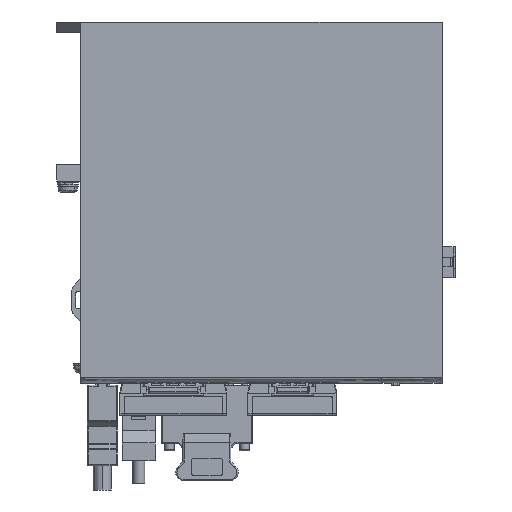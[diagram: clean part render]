
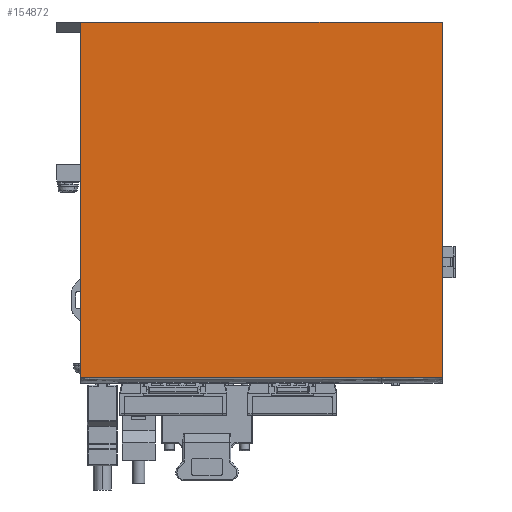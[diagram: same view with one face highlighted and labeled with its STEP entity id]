
A CAD part, front view. The second image highlights one B-rep face of the part: STEP entity #154872.
In plain terms, the highlighted planar face has unit normal (0, -1, 0).
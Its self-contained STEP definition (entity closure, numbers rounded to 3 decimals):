
#3384 = DIRECTION ( 'NONE',  ( 1., 0., 0. ) ) ;
#3992 = DIRECTION ( 'NONE',  ( 1., 0., 0. ) ) ;
#9559 = VECTOR ( 'NONE', #3992, 1000. ) ;
#12413 = CARTESIAN_POINT ( 'NONE',  ( -150., 0., -81.9 ) ) ;
#17220 = VERTEX_POINT ( 'NONE', #12413 ) ;
#20516 = CARTESIAN_POINT ( 'NONE',  ( -150., 0., -81.9 ) ) ;
#24098 = CARTESIAN_POINT ( 'NONE',  ( -150., 0., -81.9 ) ) ;
#32229 = CARTESIAN_POINT ( 'NONE',  ( -150., 0., 65.6 ) ) ;
#32754 = DIRECTION ( 'NONE',  ( 0., 0., -1. ) ) ;
#32850 = ORIENTED_EDGE ( 'NONE', *, *, #40847, .F. ) ;
#33152 = VERTEX_POINT ( 'NONE', #32229 ) ;
#37488 = ORIENTED_EDGE ( 'NONE', *, *, #136252, .T. ) ;
#40621 = CARTESIAN_POINT ( 'NONE',  ( -150., 0., -81.9 ) ) ;
#40847 = EDGE_CURVE ( 'NONE', #33152, #75295, #148489, .T. ) ;
#51902 = CARTESIAN_POINT ( 'NONE',  ( -150., 0., 65.6 ) ) ;
#52355 = CARTESIAN_POINT ( 'NONE',  ( 0., 0., -81.9 ) ) ;
#58644 = CARTESIAN_POINT ( 'NONE',  ( 0., 0., 65.6 ) ) ;
#70307 = VECTOR ( 'NONE', #96359, 1000. ) ;
#72318 = LINE ( 'NONE', #24098, #157905 ) ;
#72718 = ORIENTED_EDGE ( 'NONE', *, *, #156337, .F. ) ;
#74387 = LINE ( 'NONE', #40621, #89651 ) ;
#75295 = VERTEX_POINT ( 'NONE', #58644 ) ;
#80242 = FACE_OUTER_BOUND ( 'NONE', #157605, .T. ) ;
#89651 = VECTOR ( 'NONE', #3384, 1000. ) ;
#93406 = PLANE ( 'NONE',  #153351 ) ;
#96359 = DIRECTION ( 'NONE',  ( 0., 0., -1. ) ) ;
#96473 = DIRECTION ( 'NONE',  ( 0., 0., -1. ) ) ;
#106665 = DIRECTION ( 'NONE',  ( 0., -1., 0. ) ) ;
#108061 = CARTESIAN_POINT ( 'NONE',  ( 0., 0., -81.9 ) ) ;
#109565 = VERTEX_POINT ( 'NONE', #52355 ) ;
#123556 = LINE ( 'NONE', #108061, #70307 ) ;
#132166 = ORIENTED_EDGE ( 'NONE', *, *, #155068, .T. ) ;
#136252 = EDGE_CURVE ( 'NONE', #33152, #17220, #72318, .T. ) ;
#148489 = LINE ( 'NONE', #51902, #9559 ) ;
#153351 = AXIS2_PLACEMENT_3D ( 'NONE', #20516, #106665, #32754 ) ;
#154872 = ADVANCED_FACE ( 'NONE', ( #80242 ), #93406, .T. ) ;
#155068 = EDGE_CURVE ( 'NONE', #17220, #109565, #74387, .T. ) ;
#156337 = EDGE_CURVE ( 'NONE', #75295, #109565, #123556, .T. ) ;
#157605 = EDGE_LOOP ( 'NONE', ( #72718, #32850, #37488, #132166 ) ) ;
#157905 = VECTOR ( 'NONE', #96473, 1000. ) ;
